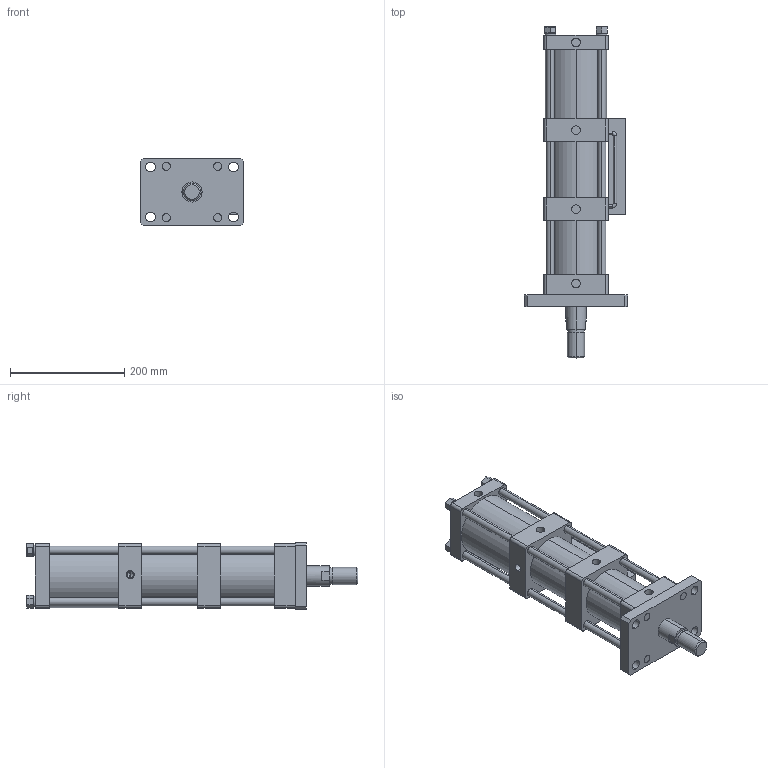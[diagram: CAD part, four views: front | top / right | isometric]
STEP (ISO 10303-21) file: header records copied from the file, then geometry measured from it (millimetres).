
FILE_DESCRIPTION (( 'STEP AP203' ), '1' );
FILE_NAME ('MPTF-80-50-5-5T.STEP', '2016-03-29T10:04:13', ( 'WIN' ), ( '' ), 'SwSTEP 2.0', 'SolidWorks 2014', '' );
FILE_SCHEMA (( 'CONFIG_CONTROL_DESIGN' ));
Length unit declared in the file: millimetre
Products named in the file (1): MPTF-80-50-5-5T
Bounding box: 180 x 580 x 118 mm (x, y, z)
Volume: 2985666.7 mm3; surface area: 510342.4 mm2
Topology: 5 solids, 5 shells, 266 faces, 632 edges, 413 vertices
Faces by surface type: cylinder 136, plane 120, cone 6, torus 4
Entity records: 7973 total; most frequent: DIRECTION 1448, CARTESIAN_POINT 1382, ORIENTED_EDGE 1260, EDGE_CURVE 630, AXIS2_PLACEMENT_3D 555, VERTEX_POINT 413, EDGE_LOOP 349, VECTOR 338
